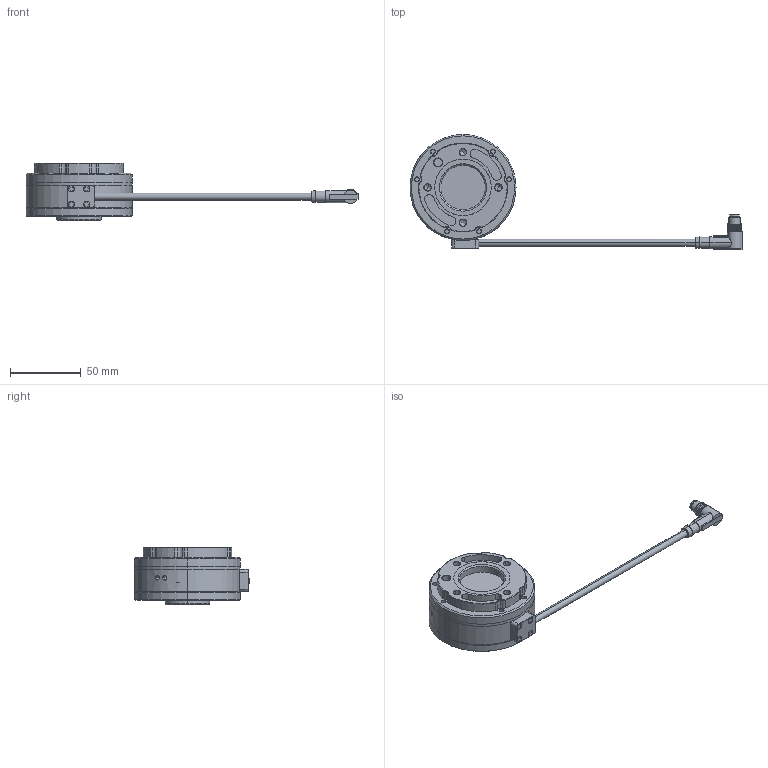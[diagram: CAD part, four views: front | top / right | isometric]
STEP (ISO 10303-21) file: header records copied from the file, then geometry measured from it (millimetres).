
FILE_DESCRIPTION(('CATIA V5 STEP'),'2;1');
FILE_NAME('D:\Desktop\CATPart11.stp','2022-06-09T03:22:46+00:00',('none'),('none'),'CATIA Version 5 Release 20 GA (IN-10)','CATIA V5 STEP AP214','none');
FILE_SCHEMA(('AUTOMOTIVE_DESIGN { 1 0 10303 214 1 1 1 1 }'));
Length unit declared in the file: millimetre
Products named in the file (1): 产品1_AllCATPart
Bounding box: 234.9 x 81.4 x 40.5 mm (x, y, z)
Volume: 119913.5 mm3; surface area: 50276.8 mm2
Topology: 18 solids, 31 shells, 1165 faces, 2837 edges, 1768 vertices
Faces by surface type: cylinder 528, plane 390, cone 247
Entity records: 34050 total; most frequent: CARTESIAN_POINT 7528, ORIENTED_EDGE 5574, DIRECTION 4302, EDGE_CURVE 2787, AXIS2_PLACEMENT_3D 2080, VERTEX_POINT 1768, VECTOR 1362, LINE 1362
